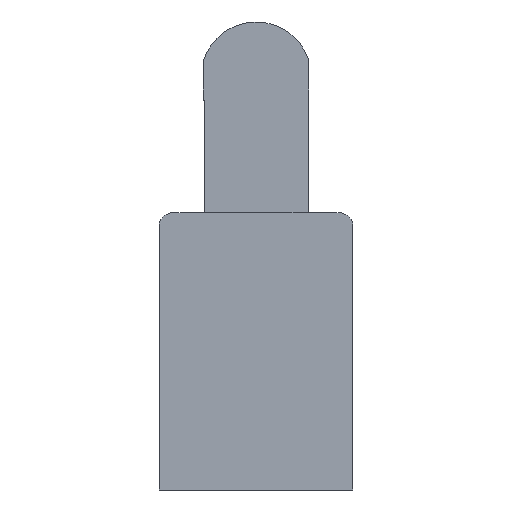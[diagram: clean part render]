
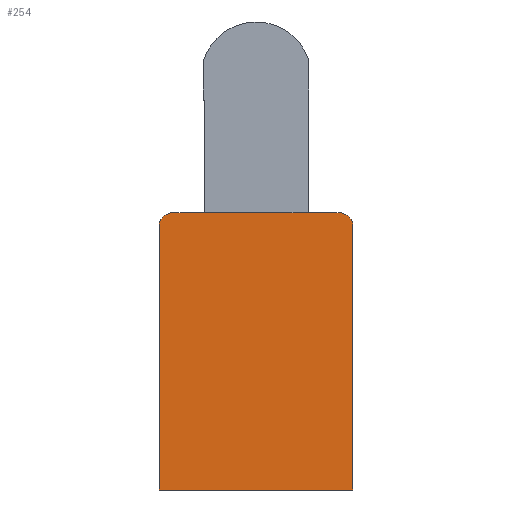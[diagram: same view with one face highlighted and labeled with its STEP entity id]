
A CAD part, left-side view. The second image highlights one B-rep face of the part: STEP entity #254.
In plain terms, the highlighted planar face has unit normal (-1, 0, 0).
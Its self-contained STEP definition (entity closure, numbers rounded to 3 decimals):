
#4 = VERTEX_POINT ( 'NONE', #114 ) ;
#13 = VERTEX_POINT ( 'NONE', #410 ) ;
#14 = LINE ( 'NONE', #40, #423 ) ;
#19 = EDGE_CURVE ( 'NONE', #35, #231, #118, .T. ) ;
#35 = VERTEX_POINT ( 'NONE', #41 ) ;
#40 = CARTESIAN_POINT ( 'NONE',  ( -200., 12., 0. ) ) ;
#41 = CARTESIAN_POINT ( 'NONE',  ( -200., -13.956, -2. ) ) ;
#47 = DIRECTION ( 'NONE',  ( 0., -1., 0. ) ) ;
#51 = CARTESIAN_POINT ( 'NONE',  ( -200., 14., -40. ) ) ;
#55 = ORIENTED_EDGE ( 'NONE', *, *, #553, .T. ) ;
#57 = ORIENTED_EDGE ( 'NONE', *, *, #565, .T. ) ;
#70 = ORIENTED_EDGE ( 'NONE', *, *, #195, .T. ) ;
#84 = ORIENTED_EDGE ( 'NONE', *, *, #403, .T. ) ;
#94 = LINE ( 'NONE', #107, #113 ) ;
#95 = DIRECTION ( 'NONE',  ( 0., 1., 0. ) ) ;
#96 = VECTOR ( 'NONE', #47, 1000. ) ;
#97 = ORIENTED_EDGE ( 'NONE', *, *, #524, .T. ) ;
#107 = CARTESIAN_POINT ( 'NONE',  ( -200., 14., -40. ) ) ;
#113 = VECTOR ( 'NONE', #123, 1000. ) ;
#114 = CARTESIAN_POINT ( 'NONE',  ( -200., 12., 0. ) ) ;
#116 = CARTESIAN_POINT ( 'NONE',  ( -200., 7.5, 0. ) ) ;
#118 = CIRCLE ( 'NONE', #460, 2. ) ;
#123 = DIRECTION ( 'NONE',  ( 0., 0., -1. ) ) ;
#136 = CARTESIAN_POINT ( 'NONE',  ( -200., 12., 0. ) ) ;
#177 = VERTEX_POINT ( 'NONE', #283 ) ;
#183 = CIRCLE ( 'NONE', #588, 2. ) ;
#195 = EDGE_CURVE ( 'NONE', #349, #4, #650, .T. ) ;
#199 = DIRECTION ( 'NONE',  ( -1., 0., 0. ) ) ;
#215 = AXIS2_PLACEMENT_3D ( 'NONE', #462, #669, #580 ) ;
#231 = VERTEX_POINT ( 'NONE', #546 ) ;
#247 = DIRECTION ( 'NONE',  ( 0., 0., 1. ) ) ;
#254 = ADVANCED_FACE ( 'NONE', ( #414 ), #455, .T. ) ;
#262 = ORIENTED_EDGE ( 'NONE', *, *, #268, .T. ) ;
#268 = EDGE_CURVE ( 'NONE', #13, #659, #94, .T. ) ;
#283 = CARTESIAN_POINT ( 'NONE',  ( -200., -7.5, 0. ) ) ;
#326 = EDGE_CURVE ( 'NONE', #659, #472, #600, .T. ) ;
#347 = ORIENTED_EDGE ( 'NONE', *, *, #326, .T. ) ;
#349 = VERTEX_POINT ( 'NONE', #116 ) ;
#358 = CARTESIAN_POINT ( 'NONE',  ( -200., 12., 0. ) ) ;
#365 = DIRECTION ( 'NONE',  ( 0., 1., 0. ) ) ;
#380 = ORIENTED_EDGE ( 'NONE', *, *, #19, .T. ) ;
#383 = VECTOR ( 'NONE', #467, 1000. ) ;
#403 = EDGE_CURVE ( 'NONE', #472, #35, #486, .T. ) ;
#410 = CARTESIAN_POINT ( 'NONE',  ( -200., 14., -2. ) ) ;
#414 = FACE_OUTER_BOUND ( 'NONE', #624, .T. ) ;
#423 = VECTOR ( 'NONE', #95, 1000. ) ;
#455 = PLANE ( 'NONE',  #215 ) ;
#458 = CARTESIAN_POINT ( 'NONE',  ( -200., -13.956, -40. ) ) ;
#460 = AXIS2_PLACEMENT_3D ( 'NONE', #468, #199, #247 ) ;
#462 = CARTESIAN_POINT ( 'NONE',  ( -200., -11.956, -2. ) ) ;
#464 = VECTOR ( 'NONE', #686, 1000. ) ;
#467 = DIRECTION ( 'NONE',  ( 0., 0., 1. ) ) ;
#468 = CARTESIAN_POINT ( 'NONE',  ( -200., -11.956, -2. ) ) ;
#471 = LINE ( 'NONE', #136, #464 ) ;
#472 = VERTEX_POINT ( 'NONE', #530 ) ;
#486 = LINE ( 'NONE', #458, #383 ) ;
#524 = EDGE_CURVE ( 'NONE', #4, #13, #183, .T. ) ;
#530 = CARTESIAN_POINT ( 'NONE',  ( -200., -13.956, -40. ) ) ;
#546 = CARTESIAN_POINT ( 'NONE',  ( -200., -11.956, 0. ) ) ;
#553 = EDGE_CURVE ( 'NONE', #177, #349, #14, .T. ) ;
#565 = EDGE_CURVE ( 'NONE', #231, #177, #471, .T. ) ;
#568 = CARTESIAN_POINT ( 'NONE',  ( -200., 14., -40. ) ) ;
#580 = DIRECTION ( 'NONE',  ( 0., 0., 1. ) ) ;
#588 = AXIS2_PLACEMENT_3D ( 'NONE', #680, #681, #683 ) ;
#600 = LINE ( 'NONE', #51, #96 ) ;
#624 = EDGE_LOOP ( 'NONE', ( #347, #84, #380, #57, #55, #70, #97, #262 ) ) ;
#650 = LINE ( 'NONE', #358, #673 ) ;
#659 = VERTEX_POINT ( 'NONE', #568 ) ;
#669 = DIRECTION ( 'NONE',  ( -1., 0., 0. ) ) ;
#673 = VECTOR ( 'NONE', #365, 1000. ) ;
#680 = CARTESIAN_POINT ( 'NONE',  ( -200., 12., -2. ) ) ;
#681 = DIRECTION ( 'NONE',  ( -1., 0., 0. ) ) ;
#683 = DIRECTION ( 'NONE',  ( 0., 0., 1. ) ) ;
#686 = DIRECTION ( 'NONE',  ( 0., 1., 0. ) ) ;
